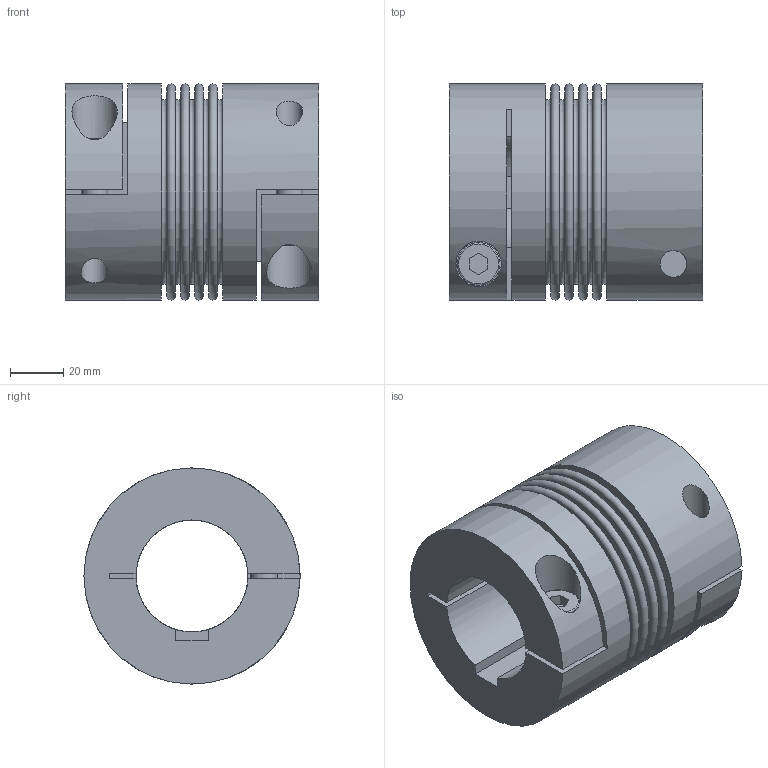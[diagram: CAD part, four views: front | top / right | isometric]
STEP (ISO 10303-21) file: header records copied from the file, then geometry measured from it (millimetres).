
FILE_DESCRIPTION(/* description */ ('STEP AP214'),/* implementation_level */ '2;1');
FILE_NAME(/* name */ 'C:\Diequa Files\DieQua Coupling\Website Step Files\BC.150.95.#.#.stp',/* time_stamp */ '2018-10-25T16:21:10-05:00',/* author */ ('DiequaCAD'),/* organization */ (''),/* preprocessor_version */ 'ST-DEVELOPER v17.2',/* originating_system */ 'Autodesk Inventor 2019',/* authorisation */ ' ');
FILE_SCHEMA (('AUTOMOTIVE_DESIGN { 1 0 10303 214 3 1 1 }'));
Length unit declared in the file: millimetre
Products named in the file (1): BC2.150.95.#.#
Bounding box: 95 x 81 x 81 mm (x, y, z)
Volume: 273854.8 mm3; surface area: 74426.2 mm2
Topology: 1 solids, 1 shells, 80 faces, 211 edges, 151 vertices
Faces by surface type: plane 54, cylinder 15, torus 11
Full cylindrical faces by diameter (mm): 10 x4, 16 x2, 17 x2, 67 x1, 81 x2
Entity records: 2761 total; most frequent: CARTESIAN_POINT 593, DIRECTION 465, ORIENTED_EDGE 422, EDGE_CURVE 211, AXIS2_PLACEMENT_3D 179, VERTEX_POINT 151, LINE 107, VECTOR 107
